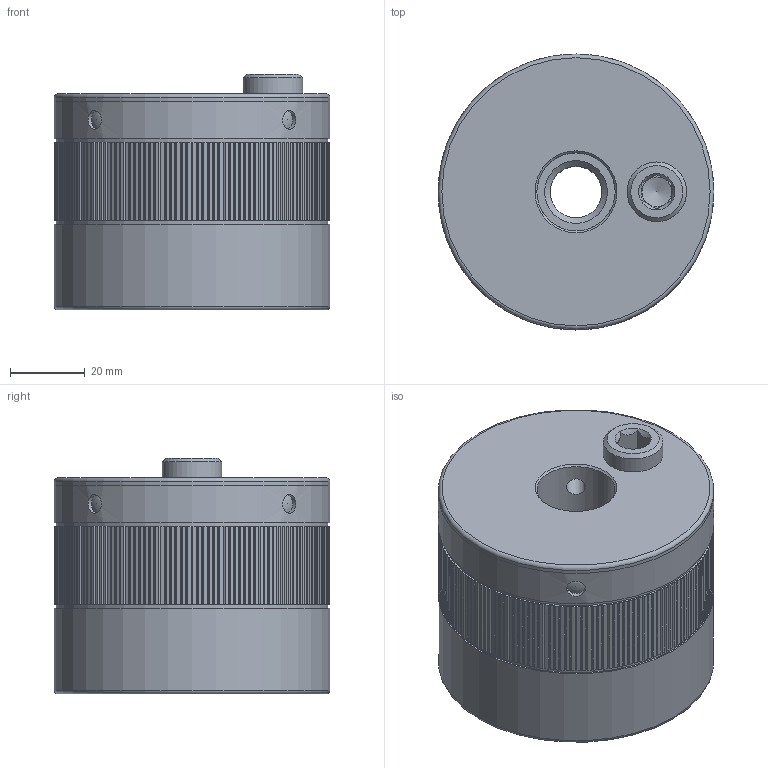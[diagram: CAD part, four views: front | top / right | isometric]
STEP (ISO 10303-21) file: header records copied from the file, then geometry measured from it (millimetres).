
FILE_DESCRIPTION(/* description */ ('Unknown','CAx-IF Rec.Pracs.---Representation and Presentation of Product Manufacturing Information (PMI)---4.0---2014-10-13','CAx-IF Rec.Pracs.---3D Tessellated Geometry---0.4---2014-09-14','2;1'),/* implementation_level */ '2;1');
FILE_NAME(/* name */ 'MDA 60_SW8_M16',/* time_stamp */ '2023-09-15T11:18:43+02:00',/* author */ ('Unknown'),/* organization */ ('Unknown'),/* preprocessor_version */ 'ST-DEVELOPER v18.102',/* originating_system */ 'Solid Edge',/* authorisation */ 'Unknown');
FILE_SCHEMA (('AP242_MANAGED_MODEL_BASED_3D_ENGINEERING_MIM_LF { 1 0 10303 442 1 1 4 }'));
Length unit declared in the file: millimetre
Products named in the file (7): 05933087; 43733042; kt101323; 46331542; 42231968; KT100075; 46431967
Assembly tree (9 placements, depth 2):
  05933087
    43733042
    kt101323
    46331542
    42231968
    KT100075  x4
    46431967
Bounding box: 74 x 74 x 63.3 mm (x, y, z)
Volume: 220812.8 mm3; surface area: 76615.8 mm2
Topology: 9 solids, 9 shells, 602 faces, 1715 edges, 1134 vertices
Faces by surface type: plane 354, cylinder 199, cone 26, torus 9, sphere 8, bspline 6
Full cylindrical faces by diameter (mm): 1.6 x1, 5 x12, 8 x1, 13.835 x1, 16 x2, 16.5 x1, 21 x1, 38 x3, 56.2 x1, 60.7 x1, 62 x1, 66.7 x1, 66.9 x1, 67 x3, 73 x2, 74 x3
Entity records: 19567 total; most frequent: CARTESIAN_POINT 3888, ORIENTED_EDGE 3172, DIRECTION 3150, EDGE_CURVE 1586, LINE 1142, VECTOR 1142, VERTEX_POINT 1092, AXIS2_PLACEMENT_3D 1004
